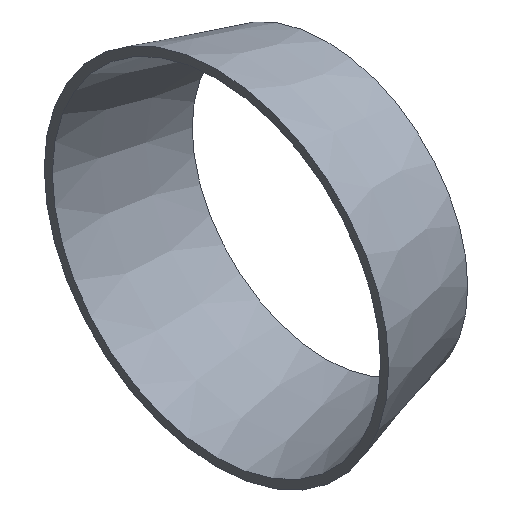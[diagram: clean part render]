
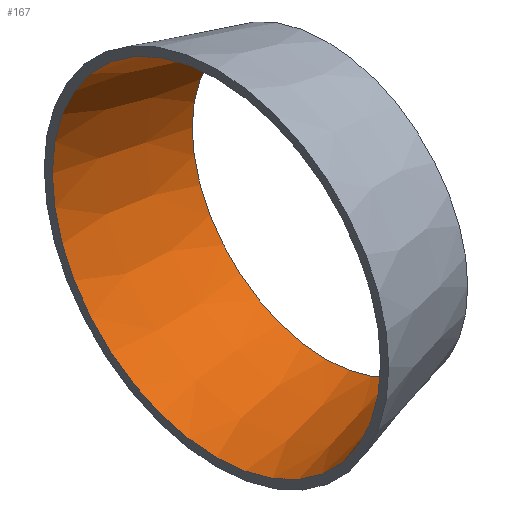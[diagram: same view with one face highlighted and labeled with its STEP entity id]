
A CAD part, isometric view. The second image highlights one B-rep face of the part: STEP entity #167.
In plain terms, the highlighted conical face has half-angle 15.524 degrees and reference radius 40.5 mm.
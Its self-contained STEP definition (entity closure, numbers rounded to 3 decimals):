
#43 = PLANE('',#44);
#44 = AXIS2_PLACEMENT_3D('',#45,#46,#47);
#45 = CARTESIAN_POINT('',(0.,0.,0.));
#46 = DIRECTION('',(1.,0.,0.));
#47 = DIRECTION('',(0.,1.,0.));
#90 = PLANE('',#91);
#91 = AXIS2_PLACEMENT_3D('',#92,#93,#94);
#92 = CARTESIAN_POINT('',(27.,0.,0.));
#93 = DIRECTION('',(1.,0.,0.));
#94 = DIRECTION('',(0.,1.,0.));
#109 = EDGE_CURVE('',#110,#110,#112,.T.);
#110 = VERTEX_POINT('',#111);
#111 = CARTESIAN_POINT('',(0.,40.5,0.));
#112 = SURFACE_CURVE('',#113,(#118,#125),.PCURVE_S1.);
#113 = CIRCLE('',#114,40.5);
#114 = AXIS2_PLACEMENT_3D('',#115,#116,#117);
#115 = CARTESIAN_POINT('',(0.,0.,0.));
#116 = DIRECTION('',(1.,0.,0.));
#117 = DIRECTION('',(0.,1.,0.));
#118 = PCURVE('',#43,#119);
#119 = DEFINITIONAL_REPRESENTATION('',(#120),#124);
#120 = CIRCLE('',#121,40.5);
#121 = AXIS2_PLACEMENT_2D('',#122,#123);
#122 = CARTESIAN_POINT('',(0.,0.));
#123 = DIRECTION('',(1.,0.));
#124 = ( GEOMETRIC_REPRESENTATION_CONTEXT(2) 
PARAMETRIC_REPRESENTATION_CONTEXT() REPRESENTATION_CONTEXT('2D SPACE',''
  ) );
#125 = PCURVE('',#126,#131);
#126 = CONICAL_SURFACE('',#127,40.5,0.271);
#127 = AXIS2_PLACEMENT_3D('',#128,#129,#130);
#128 = CARTESIAN_POINT('',(0.,0.,0.));
#129 = DIRECTION('',(-1.,-0.,-0.));
#130 = DIRECTION('',(0.,1.,0.));
#131 = DEFINITIONAL_REPRESENTATION('',(#132),#136);
#132 = LINE('',#133,#134);
#133 = CARTESIAN_POINT('',(-0.,-0.));
#134 = VECTOR('',#135,1.);
#135 = DIRECTION('',(-1.,-0.));
#136 = ( GEOMETRIC_REPRESENTATION_CONTEXT(2) 
PARAMETRIC_REPRESENTATION_CONTEXT() REPRESENTATION_CONTEXT('2D SPACE',''
  ) );
#144 = EDGE_CURVE('',#145,#145,#147,.T.);
#145 = VERTEX_POINT('',#146);
#146 = CARTESIAN_POINT('',(27.,33.,0.));
#147 = SURFACE_CURVE('',#148,(#153,#160),.PCURVE_S1.);
#148 = CIRCLE('',#149,33.);
#149 = AXIS2_PLACEMENT_3D('',#150,#151,#152);
#150 = CARTESIAN_POINT('',(27.,0.,0.));
#151 = DIRECTION('',(1.,0.,0.));
#152 = DIRECTION('',(0.,1.,0.));
#153 = PCURVE('',#90,#154);
#154 = DEFINITIONAL_REPRESENTATION('',(#155),#159);
#155 = CIRCLE('',#156,33.);
#156 = AXIS2_PLACEMENT_2D('',#157,#158);
#157 = CARTESIAN_POINT('',(0.,0.));
#158 = DIRECTION('',(1.,0.));
#159 = ( GEOMETRIC_REPRESENTATION_CONTEXT(2) 
PARAMETRIC_REPRESENTATION_CONTEXT() REPRESENTATION_CONTEXT('2D SPACE',''
  ) );
#160 = PCURVE('',#126,#161);
#161 = DEFINITIONAL_REPRESENTATION('',(#162),#166);
#162 = LINE('',#163,#164);
#163 = CARTESIAN_POINT('',(-0.,-27.));
#164 = VECTOR('',#165,1.);
#165 = DIRECTION('',(-1.,-0.));
#166 = ( GEOMETRIC_REPRESENTATION_CONTEXT(2) 
PARAMETRIC_REPRESENTATION_CONTEXT() REPRESENTATION_CONTEXT('2D SPACE',''
  ) );
#167 = ADVANCED_FACE('',(#168),#126,.F.);
#168 = FACE_BOUND('',#169,.F.);
#169 = EDGE_LOOP('',(#170,#188,#189,#190));
#170 = ORIENTED_EDGE('',*,*,#171,.F.);
#171 = EDGE_CURVE('',#110,#145,#172,.T.);
#172 = SEAM_CURVE('',#173,(#176,#182),.PCURVE_S1.);
#173 = B_SPLINE_CURVE_WITH_KNOTS('',1,(#174,#175),.UNSPECIFIED.,.F.,.F.,
  (2,2),(0.,1.),.PIECEWISE_BEZIER_KNOTS.);
#174 = CARTESIAN_POINT('',(0.,40.5,0.));
#175 = CARTESIAN_POINT('',(27.,33.,0.));
#176 = PCURVE('',#126,#177);
#177 = DEFINITIONAL_REPRESENTATION('',(#178),#181);
#178 = B_SPLINE_CURVE_WITH_KNOTS('',1,(#179,#180),.UNSPECIFIED.,.F.,.F.,
  (2,2),(0.,1.),.PIECEWISE_BEZIER_KNOTS.);
#179 = CARTESIAN_POINT('',(0.,0.));
#180 = CARTESIAN_POINT('',(0.,-27.));
#181 = ( GEOMETRIC_REPRESENTATION_CONTEXT(2) 
PARAMETRIC_REPRESENTATION_CONTEXT() REPRESENTATION_CONTEXT('2D SPACE',''
  ) );
#182 = PCURVE('',#126,#183);
#183 = DEFINITIONAL_REPRESENTATION('',(#184),#187);
#184 = B_SPLINE_CURVE_WITH_KNOTS('',1,(#185,#186),.UNSPECIFIED.,.F.,.F.,
  (2,2),(0.,1.),.PIECEWISE_BEZIER_KNOTS.);
#185 = CARTESIAN_POINT('',(-6.283,0.));
#186 = CARTESIAN_POINT('',(-6.283,-27.));
#187 = ( GEOMETRIC_REPRESENTATION_CONTEXT(2) 
PARAMETRIC_REPRESENTATION_CONTEXT() REPRESENTATION_CONTEXT('2D SPACE',''
  ) );
#188 = ORIENTED_EDGE('',*,*,#109,.T.);
#189 = ORIENTED_EDGE('',*,*,#171,.T.);
#190 = ORIENTED_EDGE('',*,*,#144,.F.);
